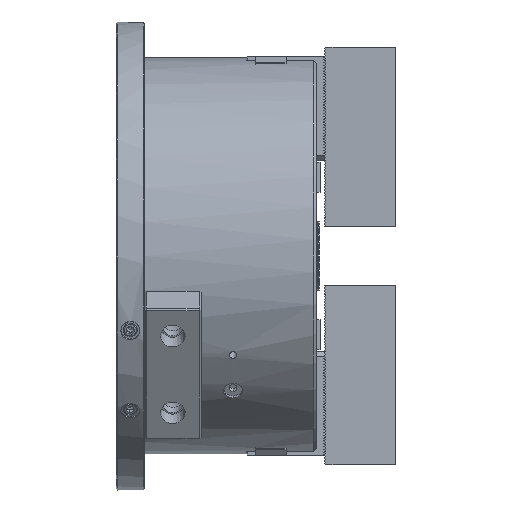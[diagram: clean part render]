
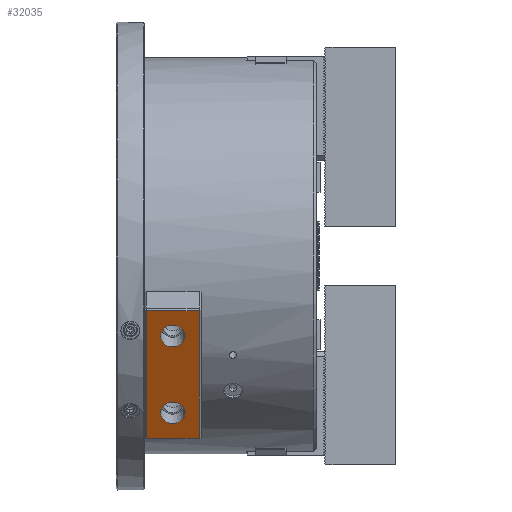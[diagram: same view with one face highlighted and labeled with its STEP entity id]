
A CAD part, front view. The second image highlights one B-rep face of the part: STEP entity #32035.
In plain terms, the highlighted planar face has unit normal (0, -0.866, -0.5).
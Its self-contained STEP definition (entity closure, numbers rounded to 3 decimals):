
#1275 = DIRECTION ( 'NONE',  ( 0., 0.866, 0.5 ) ) ;
#1332 = PLANE ( 'NONE',  #44104 ) ;
#1768 = ORIENTED_EDGE ( 'NONE', *, *, #3696, .T. ) ;
#2881 = DIRECTION ( 'NONE',  ( 1., 0., 0. ) ) ;
#3494 = DIRECTION ( 'NONE',  ( 0., -0.866, -0.5 ) ) ;
#3696 = EDGE_CURVE ( 'NONE', #41231, #41231, #47804, .T. ) ;
#5196 = CARTESIAN_POINT ( 'NONE',  ( -62., -89.186, -96.525 ) ) ;
#10063 = AXIS2_PLACEMENT_3D ( 'NONE', #20126, #1275, #66519 ) ;
#10293 = LINE ( 'NONE', #51056, #25113 ) ;
#12032 = EDGE_LOOP ( 'NONE', ( #1768 ) ) ;
#12730 = CARTESIAN_POINT ( 'NONE',  ( -61., -88.686, -97.391 ) ) ;
#13324 = VERTEX_POINT ( 'NONE', #24593 ) ;
#15651 = VERTEX_POINT ( 'NONE', #26555 ) ;
#17728 = ORIENTED_EDGE ( 'NONE', *, *, #36498, .T. ) ;
#18540 = CARTESIAN_POINT ( 'NONE',  ( -62., -128.186, -28.975 ) ) ;
#20126 = CARTESIAN_POINT ( 'NONE',  ( -76., -120.436, -42.398 ) ) ;
#22234 = ORIENTED_EDGE ( 'NONE', *, *, #71146, .F. ) ;
#22401 = CARTESIAN_POINT ( 'NONE',  ( -61., -89.186, -96.525 ) ) ;
#24593 = CARTESIAN_POINT ( 'NONE',  ( -90., -89.186, -96.525 ) ) ;
#25113 = VECTOR ( 'NONE', #69591, 1000. ) ;
#26414 = AXIS2_PLACEMENT_3D ( 'NONE', #45009, #3494, #45771 ) ;
#26555 = CARTESIAN_POINT ( 'NONE',  ( -90., -128.186, -28.975 ) ) ;
#32035 = ADVANCED_FACE ( 'NONE', ( #49633, #75470, #44093 ), #1332, .T. ) ;
#36498 = EDGE_CURVE ( 'NONE', #46291, #43743, #10293, .T. ) ;
#37697 = ORIENTED_EDGE ( 'NONE', *, *, #55752, .T. ) ;
#41231 = VERTEX_POINT ( 'NONE', #46396 ) ;
#42240 = EDGE_CURVE ( 'NONE', #45686, #45686, #51498, .T. ) ;
#43555 = LINE ( 'NONE', #67857, #62935 ) ;
#43743 = VERTEX_POINT ( 'NONE', #18540 ) ;
#44093 = FACE_BOUND ( 'NONE', #12032, .T. ) ;
#44101 = EDGE_CURVE ( 'NONE', #15651, #13324, #74402, .T. ) ;
#44104 = AXIS2_PLACEMENT_3D ( 'NONE', #12730, #53678, #48245 ) ;
#45009 = CARTESIAN_POINT ( 'NONE',  ( -76., -96.936, -83.102 ) ) ;
#45582 = LINE ( 'NONE', #22401, #54837 ) ;
#45686 = VERTEX_POINT ( 'NONE', #65710 ) ;
#45771 = DIRECTION ( 'NONE',  ( 0., 0.5, -0.866 ) ) ;
#46291 = VERTEX_POINT ( 'NONE', #5196 ) ;
#46396 = CARTESIAN_POINT ( 'NONE',  ( -76., -123.7, -36.745 ) ) ;
#47804 = CIRCLE ( 'NONE', #10063, 6.529 ) ;
#48245 = DIRECTION ( 'NONE',  ( 1., 0., 0. ) ) ;
#49633 = FACE_BOUND ( 'NONE', #75770, .T. ) ;
#50545 = ORIENTED_EDGE ( 'NONE', *, *, #42240, .F. ) ;
#51056 = CARTESIAN_POINT ( 'NONE',  ( -62., -88.686, -97.391 ) ) ;
#51498 = CIRCLE ( 'NONE', #26414, 6.529 ) ;
#52000 = DIRECTION ( 'NONE',  ( 1., 0., 0. ) ) ;
#53597 = EDGE_LOOP ( 'NONE', ( #17728, #22234, #67471, #37697 ) ) ;
#53678 = DIRECTION ( 'NONE',  ( 0., -0.866, -0.5 ) ) ;
#54837 = VECTOR ( 'NONE', #52000, 1000. ) ;
#55752 = EDGE_CURVE ( 'NONE', #13324, #46291, #45582, .T. ) ;
#58748 = VECTOR ( 'NONE', #76452, 1000. ) ;
#62935 = VECTOR ( 'NONE', #2881, 1000. ) ;
#65710 = CARTESIAN_POINT ( 'NONE',  ( -76., -93.672, -88.755 ) ) ;
#66519 = DIRECTION ( 'NONE',  ( 0., -0.5, 0.866 ) ) ;
#67471 = ORIENTED_EDGE ( 'NONE', *, *, #44101, .T. ) ;
#67857 = CARTESIAN_POINT ( 'NONE',  ( -61., -128.186, -28.975 ) ) ;
#69591 = DIRECTION ( 'NONE',  ( 0., -0.5, 0.866 ) ) ;
#71146 = EDGE_CURVE ( 'NONE', #15651, #43743, #43555, .T. ) ;
#74402 = LINE ( 'NONE', #76215, #58748 ) ;
#75470 = FACE_OUTER_BOUND ( 'NONE', #53597, .T. ) ;
#75770 = EDGE_LOOP ( 'NONE', ( #50545 ) ) ;
#76215 = CARTESIAN_POINT ( 'NONE',  ( -90., -88.686, -97.391 ) ) ;
#76452 = DIRECTION ( 'NONE',  ( 0., 0.5, -0.866 ) ) ;
